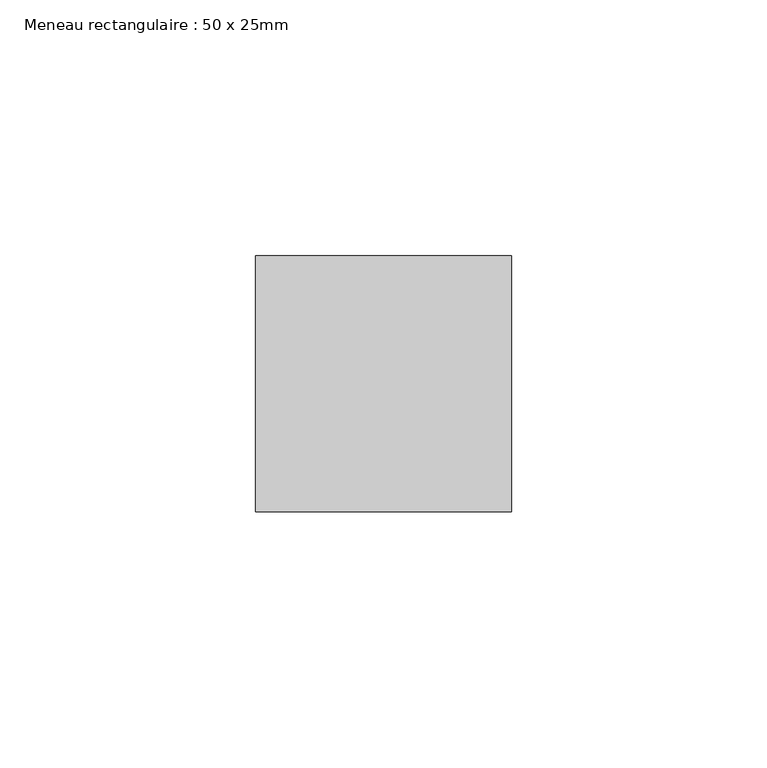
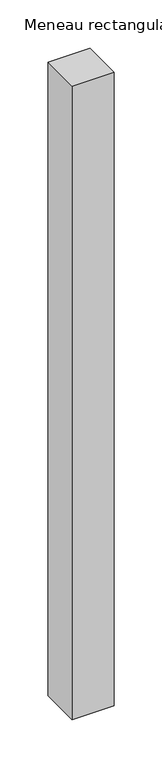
"""IFC4 building model written with IfcOpenShell, lengths in millimetres: member geometry, Meneau rectangulaire : 50 x 25mm."""

from ifc_helpers import new_model, si_unit, frame, origin, place, context, project, spatial, polyline, outline, extrude, source, transform, mapped, element, save


def meneau_rectangulaire_50_x_25mm_9b2040c4(model_context):
    return source(origin(), model_context, "Body", "SweptSolid", [
        extrude(outline(polyline([(0.0, 0.0), (0.0, -50.0), (-50.0, -50.0), (-50.0, 0.0), (0.0, 0.0)])), frame((0.0, 0.0, -801.4393104), z_axis=(0.0, 0.0, 1.0), x_axis=(1.0, 0.0, 0.0)), (0.0, 0.0, 1.0), 801.4393104),
    ])


if __name__ == "__main__":
    model = new_model("IFC4")
    model_context = context("Model", 3, world=origin())
    ifc_project = project(units=[si_unit("LENGTHUNIT", "METRE", prefix="MILLI")], contexts=[model_context])
    site = spatial("IfcSite", under=ifc_project)
    building = spatial("IfcBuilding", under=site)
    placement = place(None, origin())
    meneau_rectangulaire_50_x_25mm_shape = meneau_rectangulaire_50_x_25mm_9b2040c4(model_context)
    element("IfcMember", 1, ObjectType="Meneau rectangulaire : 50 x 25mm", at=placement, inside=building, context=model_context, shape_type="MappedRepresentation", body=[
        mapped(meneau_rectangulaire_50_x_25mm_shape, transform((0.0, 0.0, 0.0), x_axis=(1.0, 0.0, 0.0), y_axis=(0.0, 1.0, 0.0), z_axis=(0.0, 0.0, 1.0))),
    ])
    save(model, "model.ifc")
